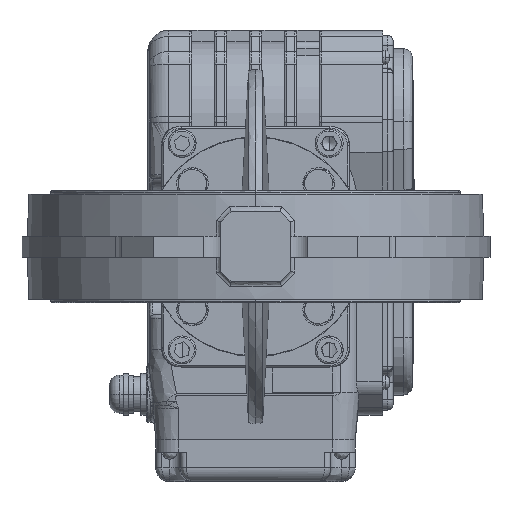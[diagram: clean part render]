
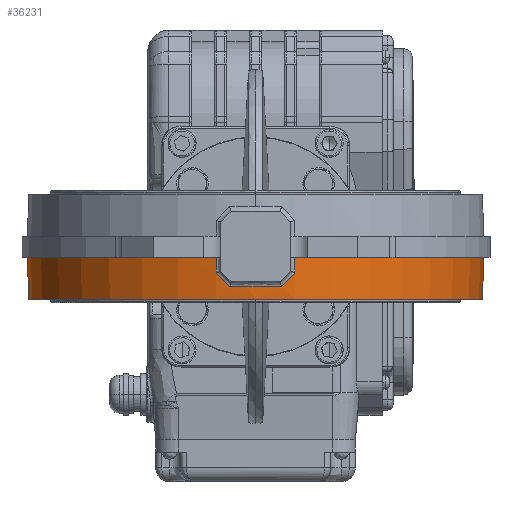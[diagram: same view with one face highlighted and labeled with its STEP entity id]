
A CAD part, front view. The second image highlights one B-rep face of the part: STEP entity #36231.
In plain terms, the highlighted conical face has half-angle 2.172 degrees and reference radius 130.41 mm.
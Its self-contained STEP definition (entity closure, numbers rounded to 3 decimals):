
#2468 = CARTESIAN_POINT ( 'NONE',  ( -130.41, 0., -6. ) ) ;
#3291 = CARTESIAN_POINT ( 'NONE',  ( 0., 0., -30. ) ) ;
#3594 = CARTESIAN_POINT ( 'NONE',  ( 130.41, 0., -6. ) ) ;
#3725 = VERTEX_POINT ( 'NONE', #3594 ) ;
#4281 = B_SPLINE_CURVE_WITH_KNOTS ( 'NONE', 3,
 ( #57585, #82070, #65567, #47998 ),
 .UNSPECIFIED., .F., .F.,
 ( 4, 4 ),
 ( 0., 1. ),
 .UNSPECIFIED. ) ;
#7237 = VERTEX_POINT ( 'NONE', #92110 ) ;
#7630 = EDGE_CURVE ( 'NONE', #16734, #48172, #9568, .T. ) ;
#8700 = CARTESIAN_POINT ( 'NONE',  ( 17.793, -128.69, -19.925 ) ) ;
#9568 = B_SPLINE_CURVE_WITH_KNOTS ( 'NONE', 3,
 ( #46691, #62692, #14684, #55752 ),
 .UNSPECIFIED., .F., .F.,
 ( 4, 4 ),
 ( 0., 1. ),
 .UNSPECIFIED. ) ;
#10129 = VECTOR ( 'NONE', #68103, 1000. ) ;
#11266 = VERTEX_POINT ( 'NONE', #56752 ) ;
#14684 = CARTESIAN_POINT ( 'NONE',  ( -20.321, -128.4, -17.339 ) ) ;
#15037 = CARTESIAN_POINT ( 'NONE',  ( -22.483, -128.34, -9.043 ) ) ;
#16215 = CARTESIAN_POINT ( 'NONE',  ( 20.321, -128.4, -17.339 ) ) ;
#16244 = ORIENTED_EDGE ( 'NONE', *, *, #7630, .T. ) ;
#16734 = VERTEX_POINT ( 'NONE', #86110 ) ;
#17190 = ORIENTED_EDGE ( 'NONE', *, *, #61700, .T. ) ;
#17437 = CARTESIAN_POINT ( 'NONE',  ( 129.5, 0., -30. ) ) ;
#19083 = VERTEX_POINT ( 'NONE', #43782 ) ;
#19150 = VERTEX_POINT ( 'NONE', #17437 ) ;
#20363 = B_SPLINE_CURVE_WITH_KNOTS ( 'NONE', 3,
 ( #72659, #47571, #15037, #95467 ),
 .UNSPECIFIED., .F., .F.,
 ( 4, 4 ),
 ( 0., 1. ),
 .UNSPECIFIED. ) ;
#20914 = DIRECTION ( 'NONE',  ( 1., 0., 0. ) ) ;
#24067 = EDGE_CURVE ( 'NONE', #11266, #7237, #73159, .T. ) ;
#24639 = CIRCLE ( 'NONE', #60426, 130.41 ) ;
#25484 = CARTESIAN_POINT ( 'NONE',  ( 0., 0., -22.886 ) ) ;
#26569 = AXIS2_PLACEMENT_3D ( 'NONE', #3291, #68954, #20914 ) ;
#26900 = EDGE_CURVE ( 'NONE', #3725, #92410, #48667, .T. ) ;
#27283 = CARTESIAN_POINT ( 'NONE',  ( 0., 0., -6. ) ) ;
#27349 = EDGE_CURVE ( 'NONE', #87211, #19150, #72605, .T. ) ;
#28000 = LINE ( 'NONE', #93555, #56606 ) ;
#28213 = AXIS2_PLACEMENT_3D ( 'NONE', #27283, #86443, #100231 ) ;
#35591 = CARTESIAN_POINT ( 'NONE',  ( 0., 0., -6. ) ) ;
#36090 = AXIS2_PLACEMENT_3D ( 'NONE', #35591, #82383, #41870 ) ;
#36231 = ADVANCED_FACE ( 'NONE', ( #60143 ), #42887, .T. ) ;
#36533 = DIRECTION ( 'NONE',  ( 0.038, 0., 0.999 ) ) ;
#37661 = EDGE_LOOP ( 'NONE', ( #51994, #99196, #65936, #98509, #58914, #93844, #17190, #16244, #94408, #60632 ) ) ;
#39762 = CARTESIAN_POINT ( 'NONE',  ( 22.483, -128.457, -6. ) ) ;
#41250 = CARTESIAN_POINT ( 'NONE',  ( 22.482, -128.106, -15.129 ) ) ;
#41870 = DIRECTION ( 'NONE',  ( 1., 0., 0. ) ) ;
#42887 = CONICAL_SURFACE ( 'NONE', #36090, 130.41, 0.038 ) ;
#43782 = CARTESIAN_POINT ( 'NONE',  ( -130.41, 0., -6. ) ) ;
#44849 = CARTESIAN_POINT ( 'NONE',  ( -129.5, 0., -30. ) ) ;
#46691 = CARTESIAN_POINT ( 'NONE',  ( -14.898, -128.912, -22.886 ) ) ;
#47308 = DIRECTION ( 'NONE',  ( 1., 0., 0. ) ) ;
#47571 = CARTESIAN_POINT ( 'NONE',  ( -22.482, -128.223, -12.086 ) ) ;
#47998 = CARTESIAN_POINT ( 'NONE',  ( 22.482, -128.106, -15.129 ) ) ;
#48172 = VERTEX_POINT ( 'NONE', #97374 ) ;
#48667 = CIRCLE ( 'NONE', #28213, 130.41 ) ;
#49206 = EDGE_CURVE ( 'NONE', #48172, #72262, #20363, .T. ) ;
#51994 = ORIENTED_EDGE ( 'NONE', *, *, #65188, .F. ) ;
#52336 = EDGE_CURVE ( 'NONE', #19150, #3725, #28000, .T. ) ;
#55752 = CARTESIAN_POINT ( 'NONE',  ( -22.482, -128.106, -15.129 ) ) ;
#56606 = VECTOR ( 'NONE', #36533, 1000. ) ;
#56752 = CARTESIAN_POINT ( 'NONE',  ( 22.482, -128.106, -15.129 ) ) ;
#57585 = CARTESIAN_POINT ( 'NONE',  ( 22.483, -128.457, -6. ) ) ;
#58914 = ORIENTED_EDGE ( 'NONE', *, *, #64136, .T. ) ;
#60143 = FACE_OUTER_BOUND ( 'NONE', #37661, .T. ) ;
#60426 = AXIS2_PLACEMENT_3D ( 'NONE', #94159, #62776, #47308 ) ;
#60632 = ORIENTED_EDGE ( 'NONE', *, *, #71714, .T. ) ;
#60944 = CARTESIAN_POINT ( 'NONE',  ( -22.483, -128.457, -6. ) ) ;
#61700 = EDGE_CURVE ( 'NONE', #7237, #16734, #65891, .T. ) ;
#62692 = CARTESIAN_POINT ( 'NONE',  ( -17.793, -128.69, -19.925 ) ) ;
#62776 = DIRECTION ( 'NONE',  ( 0., 0., -1. ) ) ;
#64136 = EDGE_CURVE ( 'NONE', #92410, #11266, #4281, .T. ) ;
#65188 = EDGE_CURVE ( 'NONE', #87211, #19083, #75578, .T. ) ;
#65567 = CARTESIAN_POINT ( 'NONE',  ( 22.482, -128.223, -12.086 ) ) ;
#65891 = CIRCLE ( 'NONE', #99780, 129.77 ) ;
#65936 = ORIENTED_EDGE ( 'NONE', *, *, #52336, .T. ) ;
#68103 = DIRECTION ( 'NONE',  ( -0.038, 0., 0.999 ) ) ;
#68954 = DIRECTION ( 'NONE',  ( 0., 0., 1. ) ) ;
#71714 = EDGE_CURVE ( 'NONE', #72262, #19083, #24639, .T. ) ;
#72262 = VERTEX_POINT ( 'NONE', #60944 ) ;
#72605 = CIRCLE ( 'NONE', #26569, 129.5 ) ;
#72659 = CARTESIAN_POINT ( 'NONE',  ( -22.482, -128.106, -15.129 ) ) ;
#73159 = B_SPLINE_CURVE_WITH_KNOTS ( 'NONE', 3,
 ( #41250, #16215, #8700, #90248 ),
 .UNSPECIFIED., .F., .F.,
 ( 4, 4 ),
 ( 0., 1. ),
 .UNSPECIFIED. ) ;
#74048 = DIRECTION ( 'NONE',  ( -1., 0., 0. ) ) ;
#75578 = LINE ( 'NONE', #2468, #10129 ) ;
#82070 = CARTESIAN_POINT ( 'NONE',  ( 22.483, -128.34, -9.043 ) ) ;
#82383 = DIRECTION ( 'NONE',  ( 0., 0., 1. ) ) ;
#84118 = DIRECTION ( 'NONE',  ( 0., 0., -1. ) ) ;
#86110 = CARTESIAN_POINT ( 'NONE',  ( -14.898, -128.912, -22.886 ) ) ;
#86443 = DIRECTION ( 'NONE',  ( 0., 0., -1. ) ) ;
#87211 = VERTEX_POINT ( 'NONE', #44849 ) ;
#90248 = CARTESIAN_POINT ( 'NONE',  ( 14.898, -128.912, -22.886 ) ) ;
#92110 = CARTESIAN_POINT ( 'NONE',  ( 14.898, -128.912, -22.886 ) ) ;
#92410 = VERTEX_POINT ( 'NONE', #39762 ) ;
#93555 = CARTESIAN_POINT ( 'NONE',  ( 130.41, 0., -6. ) ) ;
#93844 = ORIENTED_EDGE ( 'NONE', *, *, #24067, .T. ) ;
#94159 = CARTESIAN_POINT ( 'NONE',  ( 0., 0., -6. ) ) ;
#94408 = ORIENTED_EDGE ( 'NONE', *, *, #49206, .T. ) ;
#95467 = CARTESIAN_POINT ( 'NONE',  ( -22.483, -128.457, -6. ) ) ;
#97374 = CARTESIAN_POINT ( 'NONE',  ( -22.482, -128.106, -15.129 ) ) ;
#98509 = ORIENTED_EDGE ( 'NONE', *, *, #26900, .T. ) ;
#99196 = ORIENTED_EDGE ( 'NONE', *, *, #27349, .T. ) ;
#99780 = AXIS2_PLACEMENT_3D ( 'NONE', #25484, #84118, #74048 ) ;
#100231 = DIRECTION ( 'NONE',  ( 1., 0., 0. ) ) ;
